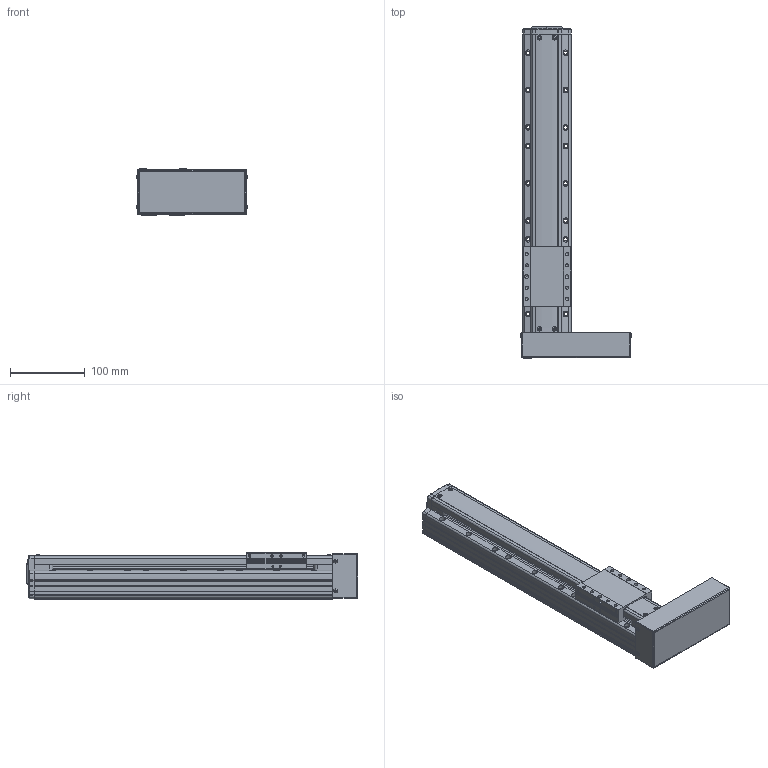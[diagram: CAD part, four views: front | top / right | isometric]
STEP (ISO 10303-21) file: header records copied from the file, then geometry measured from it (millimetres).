
FILE_DESCRIPTION(('STEP AP214'),'1');
FILE_NAME('Z:/Web/3D/PSA65/STP/PSA65-250 (3D)/PSA65ㅁㅁ-250PR.stp','2014-06-25T03:41:43',(' '),(' '),'Spatial InterOp 3D',' ',' ');
FILE_SCHEMA(('automotive_design'));
Length unit declared in the file: millimetre
Products named in the file (49): SLIDE; RRCV-PA060; 1; 2; 3; 4; 5; 6; 7; 8; 9; 10; 11; 12; 13; 14; 15; 16; 17; 18; 19; 20; 21; 22; 23; 24; 25; 26; 27; 28; 29; 30; 31; 스크루 : Round - M3.0 x 8.0; RN8 x 0.75; SHAFT-SAN65; BASE; 스크루 : Round - M3.0 x 6.0; BTCV-SAN65; BHCS M3 X 6L
Bounding box: 149.13 x 444.8 x 62 mm (x, y, z)
Volume: 1550942.3 mm3; surface area: 219719.2 mm2
Topology: 49 solids, 49 shells, 1771 faces, 4691 edges, 2984 vertices
Faces by surface type: plane 1038, cylinder 493, cone 175, sphere 30, bspline 19, torus 16
Entity records: 70232 total; most frequent: CARTESIAN_POINT 11068, DIRECTION 9350, ORIENTED_EDGE 9130, EDGE_CURVE 4565, LINE 3218, VECTOR 3218, AXIS2_PLACEMENT_3D 3066, VERTEX_POINT 2984
